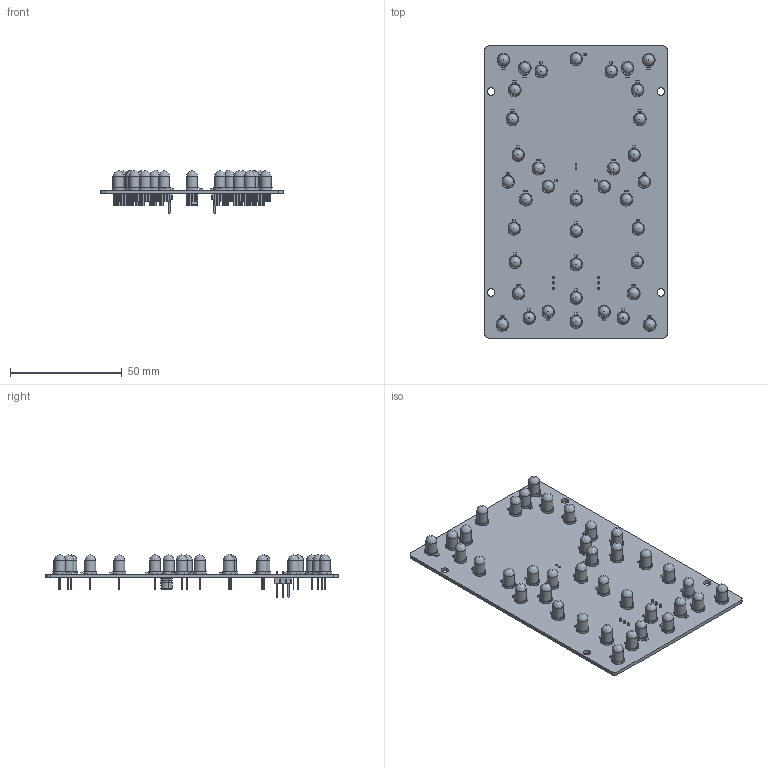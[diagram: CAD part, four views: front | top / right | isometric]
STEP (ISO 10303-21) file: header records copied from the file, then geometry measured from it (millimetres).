
FILE_DESCRIPTION(('KiCad electronic assembly'),'2;1');
FILE_NAME('20-Segment-THT.step','2024-12-12T15:13:37',('Pcbnew'),( 'Kicad'),'Open CASCADE STEP processor 7.8','KiCad to STEP converter' ,'Unknown');
FILE_SCHEMA(('AUTOMOTIVE_DESIGN { 1 0 10303 214 1 1 1 1 }'));
Length unit declared in the file: millimetre
Products named in the file (10): 20-Segment-THT 1; C_0603_1608Metric; WS2812-THT; WS2812-THT v2; CP_Radial_D5.0mm_P2.00mm; CP_Radial_D50mm_P200mm; PinHeader_1x03_P2.54mm_Vertical; PinHeader_1x03_P254mm_Vertical; 20-Segment-THT_PCB
Assembly tree (84 placements, depth 3):
  20-Segment-THT 1
    C_0603_1608Metric  x38
      C_0603_1608Metric
    WS2812-THT  x38
      WS2812-THT v2
    CP_Radial_D5.0mm_P2.00mm
      CP_Radial_D50mm_P200mm
    PinHeader_1x03_P2.54mm_Vertical  x2
      PinHeader_1x03_P254mm_Vertical
    20-Segment-THT_PCB
Bounding box: 81.75 x 130.75 x 18.84 mm (x, y, z)
Volume: 23220.9 mm3; surface area: 31471.8 mm2
Topology: 80 solids, 81 shells, 2465 faces, 6008 edges, 3985 vertices
Faces by surface type: plane 1701, cylinder 713, bspline 44, revolution 5, torus 2
Full cylindrical faces by diameter (mm): 0.5 x2, 0.8 x2, 0.85 x152, 1 x6, 3.4 x4, 4.9 x38
Entity records: 14358 total; most frequent: CARTESIAN_POINT 2721, DIRECTION 2196, ORIENTED_EDGE 1888, EDGE_CURVE 944, AXIS2_PLACEMENT_3D 841, FACE_BOUND 697, EDGE_LOOP 697, VERTEX_POINT 617
